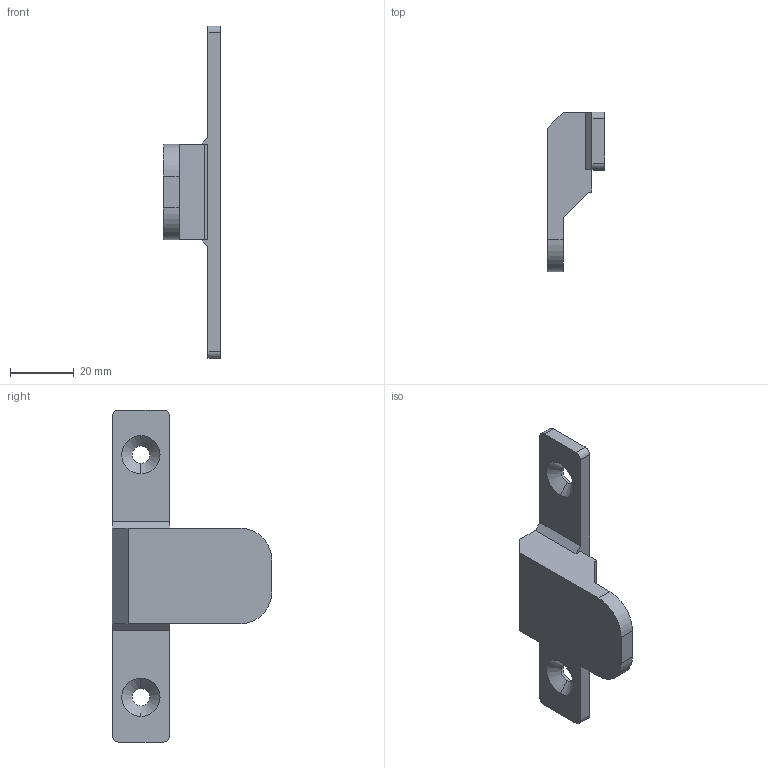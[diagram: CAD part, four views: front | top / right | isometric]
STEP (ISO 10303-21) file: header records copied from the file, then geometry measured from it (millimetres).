
FILE_DESCRIPTION (( 'STEP AP214' ), '1' );
FILE_NAME ('AGZ061.02.03_V1限位板.STEP', '2021-09-23T00:57:28', ( '微软中国' ), ( 'Microsoft' ), 'SwSTEP 2.0', 'SolidWorks 2017', '' );
FILE_SCHEMA (( 'AUTOMOTIVE_DESIGN' ));
Length unit declared in the file: millimetre
Products named in the file (1): AGZ061.02.03_V1癹弇啣
Bounding box: 18 x 50 x 104 mm (x, y, z)
Volume: 21730.9 mm3; surface area: 8061.5 mm2
Topology: 1 solids, 1 shells, 32 faces, 86 edges, 56 vertices
Faces by surface type: plane 18, cylinder 10, cone 4
Entity records: 1044 total; most frequent: DIRECTION 176, CARTESIAN_POINT 175, ORIENTED_EDGE 172, EDGE_CURVE 86, VECTOR 62, LINE 62, AXIS2_PLACEMENT_3D 57, VERTEX_POINT 56
